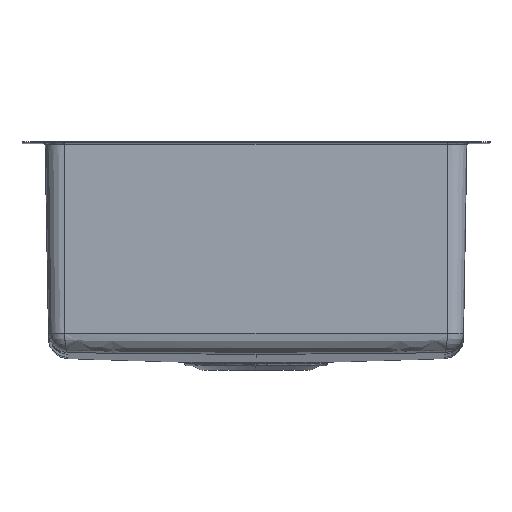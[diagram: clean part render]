
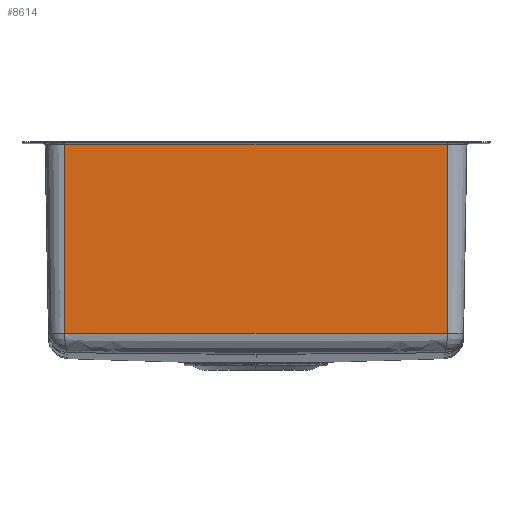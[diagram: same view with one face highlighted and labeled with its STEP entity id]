
A CAD part, top view. The second image highlights one B-rep face of the part: STEP entity #8614.
In plain terms, the highlighted planar face has unit normal (0, -0.018, 1).
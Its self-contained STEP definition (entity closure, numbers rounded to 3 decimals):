
#61 = CARTESIAN_POINT ( 'NONE',  ( -77.651, -156.356, 198.521 ) ) ;
#177 = AXIS2_PLACEMENT_3D ( 'NONE', #610, #12990, #3629 ) ;
#338 = ORIENTED_EDGE ( 'NONE', *, *, #2460, .T. ) ;
#610 = CARTESIAN_POINT ( 'NONE',  ( -155.25, 0., 201.25 ) ) ;
#790 = B_SPLINE_CURVE_WITH_KNOTS ( 'NONE', 3,
 ( #7086, #1076, #864, #6272, #10238, #5253, #9363, #4013, #13525, #8326, #7161, #7232, #9433, #61, #7302, #12351, #11471, #4228, #8394, #4085, #12494, #2991, #11335, #3133, #1967, #5041, #9217, #8250, #1003, #12426, #3202, #11190 ),
 .UNSPECIFIED., .F., .F.,
 ( 4, 1, 1, 1, 1, 1, 1, 1, 1, 1, 2, 2, 2, 1, 1, 1, 1, 1, 1, 1, 1, 1, 2, 2, 4 ),
 ( 0., 0.125, 0.188, 0.219, 0.234, 0.242, 0.246, 0.248, 0.249, 0.25, 0.25, 0.25, 0.5, 0.625, 0.688, 0.719, 0.734, 0.742, 0.746, 0.748, 0.749, 0.75, 0.75, 0.75, 1. ),
 .UNSPECIFIED. ) ;
#864 = CARTESIAN_POINT ( 'NONE',  ( -121.687, -155.906, 198.529 ) ) ;
#985 = CARTESIAN_POINT ( 'NONE',  ( 155.25, 0., 201.25 ) ) ;
#1003 = CARTESIAN_POINT ( 'NONE',  ( 77.601, -156.356, 198.521 ) ) ;
#1051 = VECTOR ( 'NONE', #10814, 1000. ) ;
#1076 = CARTESIAN_POINT ( 'NONE',  ( -141.616, -155.636, 198.533 ) ) ;
#1156 = CARTESIAN_POINT ( 'NONE',  ( -155.25, -1.983, 201.215 ) ) ;
#1255 = EDGE_CURVE ( 'NONE', #8207, #2180, #4538, .T. ) ;
#1967 = CARTESIAN_POINT ( 'NONE',  ( 77.264, -156.359, 198.521 ) ) ;
#2180 = VERTEX_POINT ( 'NONE', #1156 ) ;
#2289 = ORIENTED_EDGE ( 'NONE', *, *, #1255, .T. ) ;
#2460 = EDGE_CURVE ( 'NONE', #11402, #3490, #790, .T. ) ;
#2545 = ORIENTED_EDGE ( 'NONE', *, *, #3290, .T. ) ;
#2991 = CARTESIAN_POINT ( 'NONE',  ( 74.738, -156.38, 198.52 ) ) ;
#3133 = CARTESIAN_POINT ( 'NONE',  ( 76.903, -156.362, 198.521 ) ) ;
#3202 = CARTESIAN_POINT ( 'NONE',  ( 127.981, -155.842, 198.53 ) ) ;
#3290 = EDGE_CURVE ( 'NONE', #3490, #8207, #13360, .T. ) ;
#3490 = VERTEX_POINT ( 'NONE', #7659 ) ;
#3519 = DIRECTION ( 'NONE',  ( -1., 0., 0. ) ) ;
#3629 = DIRECTION ( 'NONE',  ( 0., -1., -0.017 ) ) ;
#3819 = CARTESIAN_POINT ( 'NONE',  ( -155.25, -155.43, 198.537 ) ) ;
#4013 = CARTESIAN_POINT ( 'NONE',  ( -78.965, -156.345, 198.521 ) ) ;
#4085 = CARTESIAN_POINT ( 'NONE',  ( 66.097, -156.447, 198.519 ) ) ;
#4228 = CARTESIAN_POINT ( 'NONE',  ( 31.87, -156.648, 198.516 ) ) ;
#4538 = LINE ( 'NONE', #8716, #7087 ) ;
#5041 = CARTESIAN_POINT ( 'NONE',  ( 77.444, -156.358, 198.521 ) ) ;
#5253 = CARTESIAN_POINT ( 'NONE',  ( -82.999, -156.31, 198.522 ) ) ;
#5571 = VECTOR ( 'NONE', #8230, 1000. ) ;
#6272 = CARTESIAN_POINT ( 'NONE',  ( -99.351, -156.154, 198.524 ) ) ;
#6973 = FACE_OUTER_BOUND ( 'NONE', #12954, .T. ) ;
#7047 = ORIENTED_EDGE ( 'NONE', *, *, #9311, .F. ) ;
#7086 = CARTESIAN_POINT ( 'NONE',  ( -155.25, -155.43, 198.537 ) ) ;
#7087 = VECTOR ( 'NONE', #3519, 1000. ) ;
#7125 = CARTESIAN_POINT ( 'NONE',  ( 155.25, -1.983, 201.215 ) ) ;
#7161 = CARTESIAN_POINT ( 'NONE',  ( -77.792, -156.355, 198.521 ) ) ;
#7232 = CARTESIAN_POINT ( 'NONE',  ( -77.721, -156.355, 198.521 ) ) ;
#7302 = CARTESIAN_POINT ( 'NONE',  ( -51.209, -156.578, 198.517 ) ) ;
#7539 = CARTESIAN_POINT ( 'NONE',  ( -155.25, 0., 201.25 ) ) ;
#7659 = CARTESIAN_POINT ( 'NONE',  ( 155.25, -155.43, 198.537 ) ) ;
#8207 = VERTEX_POINT ( 'NONE', #7125 ) ;
#8230 = DIRECTION ( 'NONE',  ( 0., 1., 0.017 ) ) ;
#8250 = CARTESIAN_POINT ( 'NONE',  ( 77.573, -156.357, 198.521 ) ) ;
#8326 = CARTESIAN_POINT ( 'NONE',  ( -77.96, -156.353, 198.521 ) ) ;
#8394 = CARTESIAN_POINT ( 'NONE',  ( 54.629, -156.526, 198.518 ) ) ;
#8614 = ADVANCED_FACE ( 'NONE', ( #6973 ), #9983, .T. ) ;
#8716 = CARTESIAN_POINT ( 'NONE',  ( -155.25, -1.983, 201.215 ) ) ;
#9217 = CARTESIAN_POINT ( 'NONE',  ( 77.522, -156.357, 198.521 ) ) ;
#9311 = EDGE_CURVE ( 'NONE', #11402, #2180, #11899, .T. ) ;
#9363 = CARTESIAN_POINT ( 'NONE',  ( -80.307, -156.333, 198.521 ) ) ;
#9433 = CARTESIAN_POINT ( 'NONE',  ( -77.673, -156.356, 198.521 ) ) ;
#9983 = PLANE ( 'NONE',  #177 ) ;
#10238 = CARTESIAN_POINT ( 'NONE',  ( -88.412, -156.261, 198.522 ) ) ;
#10814 = DIRECTION ( 'NONE',  ( 0., 1., 0.017 ) ) ;
#11190 = CARTESIAN_POINT ( 'NONE',  ( 155.25, -155.43, 198.537 ) ) ;
#11335 = CARTESIAN_POINT ( 'NONE',  ( 76.181, -156.368, 198.521 ) ) ;
#11402 = VERTEX_POINT ( 'NONE', #3819 ) ;
#11471 = CARTESIAN_POINT ( 'NONE',  ( 12.667, -156.689, 198.515 ) ) ;
#11899 = LINE ( 'NONE', #7539, #1051 ) ;
#12351 = CARTESIAN_POINT ( 'NONE',  ( -25.334, -156.689, 198.515 ) ) ;
#12426 = CARTESIAN_POINT ( 'NONE',  ( 102.106, -156.15, 198.524 ) ) ;
#12494 = CARTESIAN_POINT ( 'NONE',  ( 71.854, -156.403, 198.52 ) ) ;
#12954 = EDGE_LOOP ( 'NONE', ( #2545, #2289, #7047, #338 ) ) ;
#12990 = DIRECTION ( 'NONE',  ( 0., -0.017, 1. ) ) ;
#13360 = LINE ( 'NONE', #985, #5571 ) ;
#13525 = CARTESIAN_POINT ( 'NONE',  ( -78.295, -156.351, 198.521 ) ) ;
